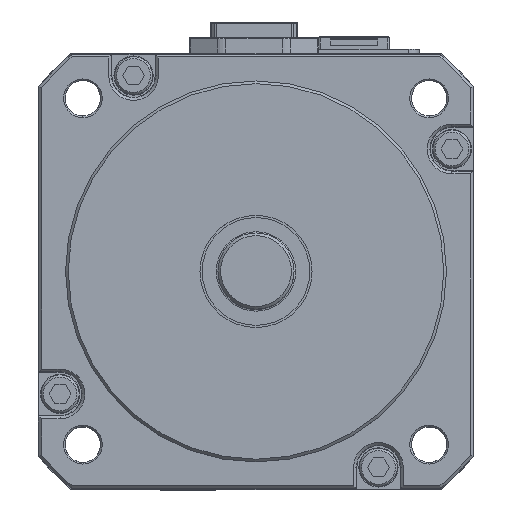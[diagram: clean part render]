
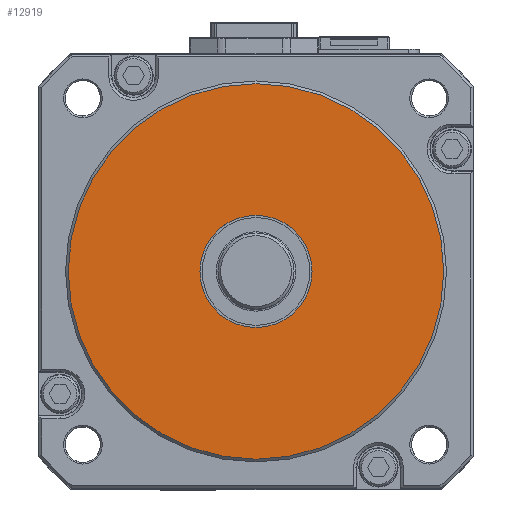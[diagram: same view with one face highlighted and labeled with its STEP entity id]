
A CAD part, top view. The second image highlights one B-rep face of the part: STEP entity #12919.
In plain terms, the highlighted planar face has unit normal (0, 0, 1).
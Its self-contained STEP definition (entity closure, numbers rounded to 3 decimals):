
#1875 = FACE_OUTER_BOUND ( 'NONE', #36639, .T. ) ;
#5235 = AXIS2_PLACEMENT_3D ( 'NONE', #62775, #24265, #46083 ) ;
#7574 = VERTEX_POINT ( 'NONE', #29377 ) ;
#9357 = EDGE_CURVE ( 'NONE', #50101, #50101, #9770, .T. ) ;
#9770 = CIRCLE ( 'NONE', #5235, 34.5 ) ;
#12919 = ADVANCED_FACE ( 'NONE', ( #18288, #1875 ), #61122, .T. ) ;
#18288 = FACE_BOUND ( 'NONE', #36366, .T. ) ;
#19199 = EDGE_CURVE ( 'NONE', #7574, #7574, #25393, .T. ) ;
#22943 = DIRECTION ( 'NONE',  ( 0., 0., 1. ) ) ;
#24265 = DIRECTION ( 'NONE',  ( 0., 0., 1. ) ) ;
#25393 = CIRCLE ( 'NONE', #37924, 10.3 ) ;
#29043 = DIRECTION ( 'NONE',  ( 1., 0., 0. ) ) ;
#29377 = CARTESIAN_POINT ( 'NONE',  ( 10.3, 0., 13. ) ) ;
#36210 = ORIENTED_EDGE ( 'NONE', *, *, #19199, .F. ) ;
#36366 = EDGE_LOOP ( 'NONE', ( #36210 ) ) ;
#36639 = EDGE_LOOP ( 'NONE', ( #55621 ) ) ;
#37924 = AXIS2_PLACEMENT_3D ( 'NONE', #69871, #64822, #65530 ) ;
#45819 = CARTESIAN_POINT ( 'NONE',  ( 0., 0., 13. ) ) ;
#46083 = DIRECTION ( 'NONE',  ( 1., 0., 0. ) ) ;
#50101 = VERTEX_POINT ( 'NONE', #65378 ) ;
#55621 = ORIENTED_EDGE ( 'NONE', *, *, #9357, .T. ) ;
#57737 = AXIS2_PLACEMENT_3D ( 'NONE', #45819, #22943, #29043 ) ;
#61122 = PLANE ( 'NONE',  #57737 ) ;
#62775 = CARTESIAN_POINT ( 'NONE',  ( 0., 0., 13. ) ) ;
#64822 = DIRECTION ( 'NONE',  ( 0., 0., 1. ) ) ;
#65378 = CARTESIAN_POINT ( 'NONE',  ( 34.5, 0., 13. ) ) ;
#65530 = DIRECTION ( 'NONE',  ( 1., 0., 0. ) ) ;
#69871 = CARTESIAN_POINT ( 'NONE',  ( 0., 0., 13. ) ) ;
